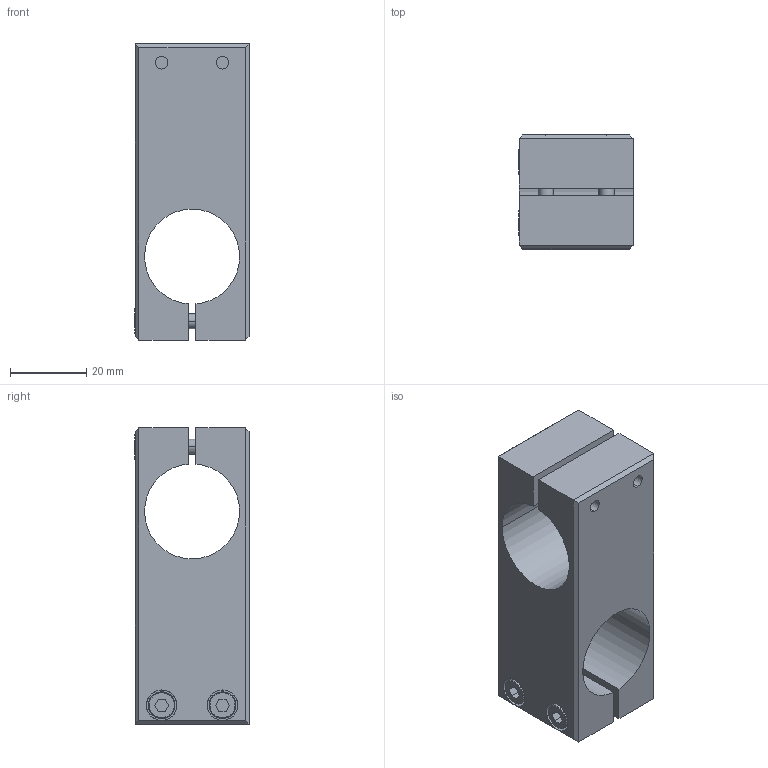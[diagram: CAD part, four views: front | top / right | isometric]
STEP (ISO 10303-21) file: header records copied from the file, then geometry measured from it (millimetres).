
FILE_DESCRIPTION (( 'STEP AP214' ), '1' );
FILE_NAME ('SMBT-2525T.STEP', '2023-01-04T07:27:48', ( 'Windows User' ), ( 'P R C' ), 'SwSTEP 2.0', 'SolidWorks 2018', '' );
FILE_SCHEMA (( 'AUTOMOTIVE_DESIGN' ));
Length unit declared in the file: millimetre
Products named in the file (4): PTC-M4L18; SMBT-2525; PTS-M4; SMBT-2525T
Assembly tree (9 placements, depth 2):
  SMBT-2525T
    SMBT-2525
    PTC-M4L18  x4
    PTS-M4  x4
Bounding box: 30.05 x 30.05 x 78 mm (x, y, z)
Volume: 38825.9 mm3; surface area: 17790.7 mm2
Topology: 9 solids, 9 shells, 802 faces, 2308 edges, 1524 vertices
Faces by surface type: plane 704, cylinder 62, cone 36
Entity records: 8470 total; most frequent: DIRECTION 1476, CARTESIAN_POINT 1454, ORIENTED_EDGE 1412, EDGE_CURVE 706, AXIS2_PLACEMENT_3D 516, VERTEX_POINT 462, VECTOR 444, LINE 444
